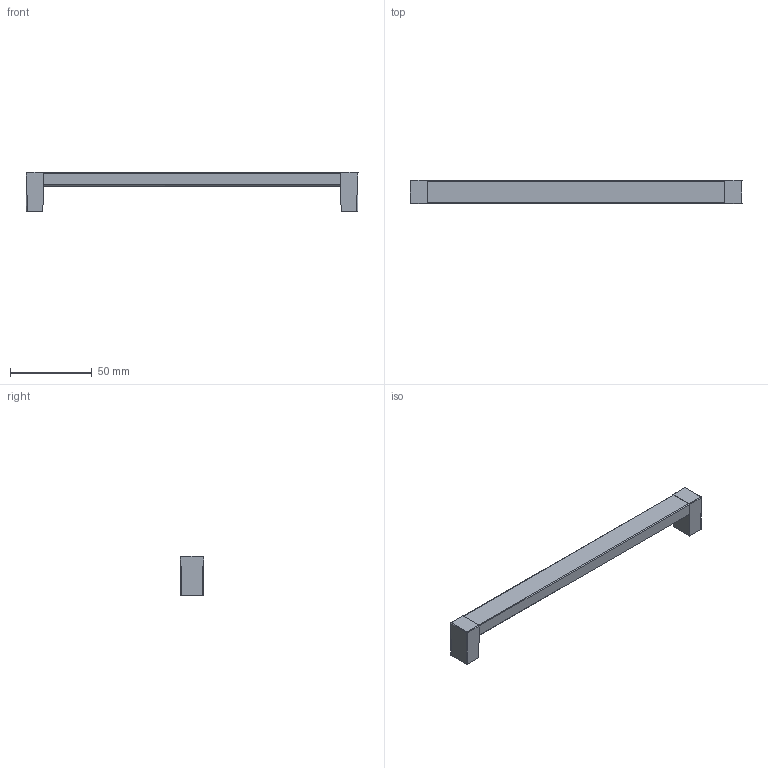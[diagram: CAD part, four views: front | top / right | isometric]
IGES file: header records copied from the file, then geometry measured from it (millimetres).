
Start section: C
Global section: file name: 0839.igs; native system: By Siemens PLM Incorporated; preprocessor: XPlus GENERIC/IGES 16.0.42; author: Author; organization: Title; date: 20210505.152013; units: millimetre
Bounding box: 202.53 x 14.5 x 24.25 mm (x, y, z)
Surface area: 21994.1 mm2 (no closed solid volume)
Topology: 0 solids, 0 shells, 738 faces, 3804 edges, 3792 vertices
Faces by surface type: bspline 738
